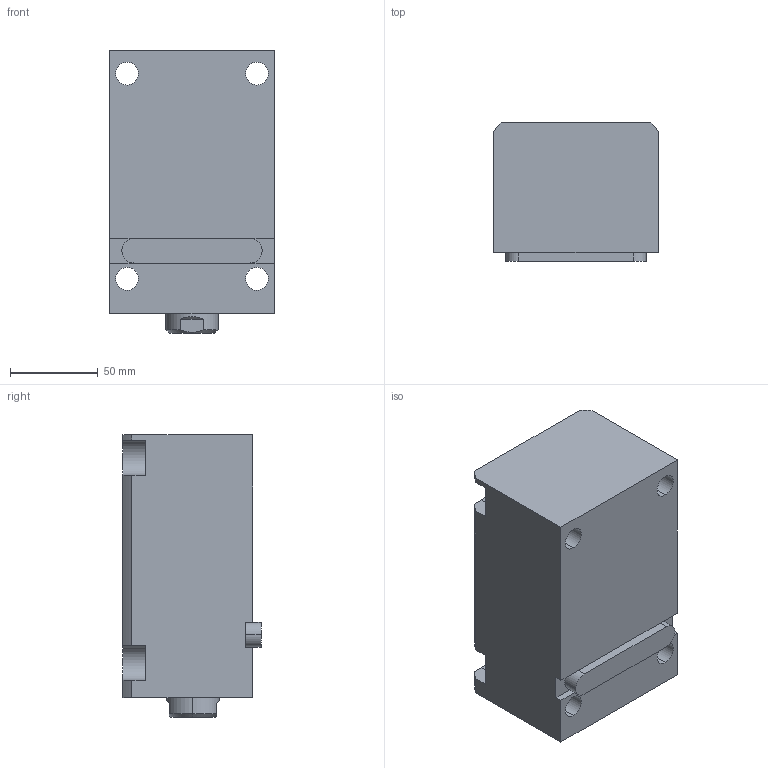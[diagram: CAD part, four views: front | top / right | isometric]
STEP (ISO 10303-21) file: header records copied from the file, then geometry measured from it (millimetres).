
FILE_DESCRIPTION (( 'STEP AP203' ), '1' );
FILE_NAME ('CHTB-LA50-90N.STEP', '2018-05-18T01:54:25', ( '' ), ( '' ), 'SwSTEP 2.0', 'SolidWorks 2015', '' );
FILE_SCHEMA (( 'CONFIG_CONTROL_DESIGN' ));
Length unit declared in the file: millimetre
Products named in the file (4): CHTM-SDMA50QG; 活塞杆LA50-90N; CHTB-LA50-90N; 掛极LA50-90N
Assembly tree (3 placements, depth 2):
  CHTB-LA50-90N
    掛极LA50-90N
    活塞杆LA50-90N
    CHTM-SDMA50QG
Bounding box: 94 x 79 x 161 mm (x, y, z)
Volume: 873458.1 mm3; surface area: 135972.1 mm2
Topology: 3 solids, 3 shells, 202 faces, 542 edges, 358 vertices
Faces by surface type: cylinder 96, plane 53, cone 23, torus 16, bspline 14
Entity records: 11255 total; most frequent: CARTESIAN_POINT 5992, ORIENTED_EDGE 1072, DIRECTION 958, EDGE_CURVE 536, AXIS2_PLACEMENT_3D 377, VERTEX_POINT 358, EDGE_LOOP 234, VECTOR 204
